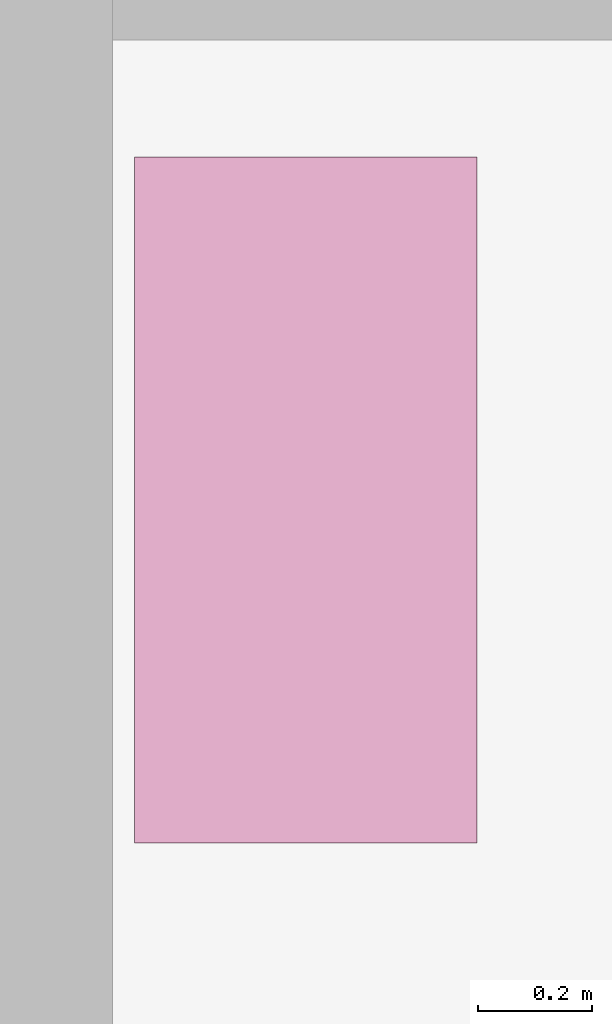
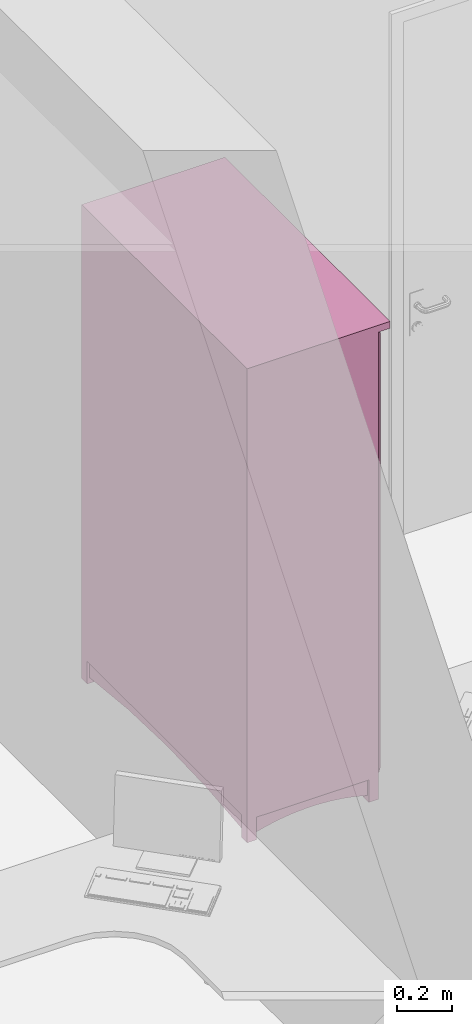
# One storey, part 161 of 194: 1 furnishing.
"""IFC2X3 building model written with IfcOpenShell, lengths in millimetres."""

from ifc_helpers import new_model, entity, si_unit, converted_unit, derived_unit, money_unit, direction, frame, origin_with_axes, place, context, subcontext, project, spatial, open_shell, faceted_brep, surface_model, type_object, element, save


model = new_model("IFC2X3")

# Units and contexts
model_context = context("Model", 3, precision=1e-05, world=origin_with_axes(), true_north=direction((0.0, 1.0)))
body_context = subcontext(model_context, "Body", "Model", "MODEL_VIEW")
ifc_project = project(units=[si_unit("LENGTHUNIT", "METRE", prefix="MILLI"), si_unit("AREAUNIT", "SQUARE_METRE"), si_unit("VOLUMEUNIT", "CUBIC_METRE"), converted_unit("PLANEANGLEUNIT", "DEGREE", entity("IfcPlaneAngleMeasure", 0.0174532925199), si_unit("PLANEANGLEUNIT", "RADIAN"), dimensions=[0, 0, 0, 0, 0, 0, 0]), si_unit("SOLIDANGLEUNIT", "STERADIAN"), money_unit("EUR"), converted_unit("TIMEUNIT", "Year", entity("IfcTimeMeasure", 31556926.0), si_unit("TIMEUNIT", "SECOND"), dimensions=[0, 0, 1, 0, 0, 0, 0]), si_unit("MASSUNIT", "GRAM", prefix="KILO"), si_unit("THERMODYNAMICTEMPERATUREUNIT", "DEGREE_CELSIUS"), si_unit("LUMINOUSINTENSITYUNIT", "LUMEN"), si_unit("ENERGYUNIT", "JOULE", prefix="MEGA"), derived_unit("THERMALCONDUCTANCEUNIT", [(si_unit("POWERUNIT", "WATT"), 1), (si_unit("LENGTHUNIT", "METRE"), -1), (si_unit("THERMODYNAMICTEMPERATUREUNIT", "KELVIN"), -1)]), derived_unit("SPECIFICHEATCAPACITYUNIT", [(si_unit("ENERGYUNIT", "JOULE"), 1), (si_unit("MASSUNIT", "GRAM", prefix="KILO"), -1), (si_unit("THERMODYNAMICTEMPERATUREUNIT", "KELVIN"), -1)]), derived_unit("MASSDENSITYUNIT", [(si_unit("MASSUNIT", "GRAM", prefix="KILO"), 1), (si_unit("VOLUMEUNIT", "CUBIC_METRE"), -1)])], contexts=[model_context])

# Site, building, storey
site_placement = place(None, origin_with_axes())
site = spatial("IfcSite", under=ifc_project, at=site_placement, Name="Site", CompositionType="ELEMENT")
building_placement = place(site_placement, origin_with_axes())
building = spatial("IfcBuilding", under=site, at=building_placement, Name="Building", CompositionType="ELEMENT")
storey_placement = place(building_placement, frame((0.0, 0.0, 3000.0), z_axis=(0.0, 0.0, 1.0), x_axis=(1.0, 0.0, 0.0)))
storey = spatial("IfcBuildingStorey", under=building, at=storey_placement, Name="2 KORRUS", CompositionType="ELEMENT", Elevation=3000.0)

# Furnishing
furnishing_element_type = type_object("IfcFurnishingElementType", Name="Cupboard 22")
furnishing_placement = place(storey_placement, frame((16795.4464706, 61991.5795016, 0.0), z_axis=(0.0, 0.0, 1.0), x_axis=(0.0, 1.0, 0.0)))
element("IfcFurnishingElement", 1, at=furnishing_placement, inside=storey, type_object=furnishing_element_type, Name="FU - 002", context=body_context, shape_type="SurfaceModel", body=[
    faceted_brep([(1180.0, 600.0, 120.0), (1180.0, 600.0, 2050.0), (1180.0, 580.0, 2050.0), (1180.0, 580.0, 120.0), (20.0, 600.0, 120.0), (20.0, 600.0, 2050.0), (20.0, 580.0, 2050.0), (20.0, 580.0, 120.0)], [[[0, 1, 2, 3]], [[4, 5, 1, 0]], [[1, 5, 6, 2]], [[3, 2, 6, 7]], [[0, 3, 7, 4]], [[7, 6, 5, 4]]]),
    faceted_brep([(0.0, 50.0, 100.0), (0.0, 600.0, 100.0), (20.0, 600.0, 100.0), (20.0, 50.0, 100.0), (0.0, 50.0, 2070.0), (0.0, 600.0, 2070.0), (20.0, 600.0, 2070.0), (20.0, 50.0, 2070.0)], [[[0, 1, 2, 3]], [[0, 4, 5, 1]], [[1, 5, 6, 2]], [[2, 6, 7, 3]], [[3, 7, 4, 0]], [[7, 6, 5, 4]]]),
    faceted_brep([(1180.0, 50.0, 100.0), (1180.0, 600.0, 100.0), (1200.0, 600.0, 100.0), (1200.0, 50.0, 100.0), (1180.0, 50.0, 2070.0), (1180.0, 600.0, 2070.0), (1200.0, 600.0, 2070.0), (1200.0, 50.0, 2070.0)], [[[0, 1, 2, 3]], [[0, 4, 5, 1]], [[1, 5, 6, 2]], [[2, 6, 7, 3]], [[3, 7, 4, 0]], [[7, 6, 5, 4]]]),
    faceted_brep([(20.0, 50.0, 100.0), (20.0, 600.0, 100.0), (1180.0, 600.0, 100.0), (1180.0, 50.0, 100.0), (20.0, 50.0, 120.0), (20.0, 600.0, 120.0), (1180.0, 600.0, 120.0), (1180.0, 50.0, 120.0)], [[[0, 1, 2, 3]], [[0, 4, 5, 1]], [[1, 5, 6, 2]], [[2, 6, 7, 3]], [[3, 7, 4, 0]], [[7, 6, 5, 4]]]),
    faceted_brep([(20.0, 50.0, 2050.0), (20.0, 600.0, 2050.0), (1180.0, 600.0, 2050.0), (1180.0, 50.0, 2050.0), (20.0, 50.0, 2070.0), (20.0, 600.0, 2070.0), (1180.0, 600.0, 2070.0), (1180.0, 50.0, 2070.0)], [[[0, 1, 2, 3]], [[0, 4, 5, 1]], [[1, 5, 6, 2]], [[2, 6, 7, 3]], [[3, 7, 4, 0]], [[7, 6, 5, 4]]]),
    faceted_brep([(0.0, 600.0, 2070.0), (0.0, 0.0, 2070.0), (0.0, 0.0, 2100.0), (0.0, 600.0, 2100.0), (1200.0, 600.0, 2070.0), (1200.0, 0.0, 2070.0), (1200.0, 0.0, 2100.0), (1200.0, 600.0, 2100.0)], [[[0, 1, 2, 3]], [[0, 4, 5, 1]], [[1, 5, 6, 2]], [[3, 2, 6, 7]], [[4, 0, 3, 7]], [[5, 4, 7, 6]]]),
    faceted_brep([(1160.0, 590.0, 25.0), (1160.0, 570.0, 25.0), (880.627087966, 570.0, 53.1145136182), (880.627087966, 590.0, 53.1145136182), (1160.0, 590.0, 100.0), (1160.0, 570.0, 100.0), (40.0, 570.0, 100.0), (40.0, 570.0, 25.0), (319.372912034, 570.0, 53.1145136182), (600.0, 570.0, 62.5), (600.0, 590.0, 62.5), (319.372912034, 590.0, 53.1145136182), (40.0, 590.0, 25.0), (40.0, 590.0, 100.0)], [[[0, 1, 2, 3]], [[4, 5, 1, 0]], [[1, 5, 6, 7, 8, 9, 2]], [[3, 2, 9, 10]], [[0, 3, 10, 11, 12, 13, 4]], [[13, 6, 5, 4]], [[12, 7, 6, 13]], [[11, 8, 7, 12]], [[10, 9, 8, 11]]]),
    faceted_brep([(1160.0, 80.0, 25.0), (1160.0, 60.0, 25.0), (880.627087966, 60.0, 53.1145136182), (880.627087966, 80.0, 53.1145136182), (1160.0, 80.0, 100.0), (1160.0, 60.0, 100.0), (40.0, 60.0, 100.0), (40.0, 60.0, 25.0), (319.372912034, 60.0, 53.1145136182), (600.0, 60.0, 62.5), (600.0, 80.0, 62.5), (319.372912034, 80.0, 53.1145136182), (40.0, 80.0, 25.0), (40.0, 80.0, 100.0)], [[[0, 1, 2, 3]], [[4, 5, 1, 0]], [[1, 5, 6, 7, 8, 9, 2]], [[3, 2, 9, 10]], [[0, 3, 10, 11, 12, 13, 4]], [[13, 6, 5, 4]], [[12, 7, 6, 13]], [[11, 8, 7, 12]], [[10, 9, 8, 11]]]),
    faceted_brep([(1190.0, 90.0, 25.0), (1170.0, 90.0, 25.0), (1170.0, 141.266337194, 38.0717567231), (1190.0, 141.266337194, 38.0717567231), (1190.0, 90.0, 100.0), (1170.0, 90.0, 100.0), (1170.0, 560.0, 100.0), (1170.0, 560.0, 25.0), (1170.0, 508.733662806, 38.0717567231), (1170.0, 456.751812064, 47.9203782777), (1170.0, 404.256880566, 54.5075112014), (1170.0, 351.453299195, 57.8075032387), (1170.0, 298.546700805, 57.8075032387), (1170.0, 245.743119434, 54.5075112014), (1170.0, 193.248187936, 47.9203782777), (1190.0, 193.248187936, 47.9203782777), (1190.0, 245.743119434, 54.5075112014), (1190.0, 298.546700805, 57.8075032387), (1190.0, 351.453299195, 57.8075032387), (1190.0, 404.256880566, 54.5075112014), (1190.0, 456.751812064, 47.9203782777), (1190.0, 508.733662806, 38.0717567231), (1190.0, 560.0, 25.0), (1190.0, 560.0, 100.0)], [[[0, 1, 2, 3]], [[4, 5, 1, 0]], [[1, 5, 6, 7, 8, 9, 10, 11, 12, 13, 14, 2]], [[3, 2, 14, 15]], [[0, 3, 15, 16, 17, 18, 19, 20, 21, 22, 23, 4]], [[23, 6, 5, 4]], [[22, 7, 6, 23]], [[21, 8, 7, 22]], [[20, 9, 8, 21]], [[19, 10, 9, 20]], [[18, 11, 10, 19]], [[17, 12, 11, 18]], [[16, 13, 12, 17]], [[15, 14, 13, 16]]]),
    faceted_brep([(30.0, 90.0, 25.0), (10.0, 90.0, 25.0), (10.0, 141.266337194, 38.0717567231), (30.0, 141.266337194, 38.0717567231), (30.0, 90.0, 100.0), (10.0, 90.0, 100.0), (10.0, 560.0, 100.0), (10.0, 560.0, 25.0), (10.0, 508.733662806, 38.0717567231), (10.0, 456.751812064, 47.9203782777), (10.0, 404.256880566, 54.5075112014), (10.0, 351.453299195, 57.8075032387), (10.0, 298.546700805, 57.8075032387), (10.0, 245.743119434, 54.5075112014), (10.0, 193.248187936, 47.9203782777), (30.0, 193.248187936, 47.9203782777), (30.0, 245.743119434, 54.5075112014), (30.0, 298.546700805, 57.8075032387), (30.0, 351.453299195, 57.8075032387), (30.0, 404.256880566, 54.5075112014), (30.0, 456.751812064, 47.9203782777), (30.0, 508.733662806, 38.0717567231), (30.0, 560.0, 25.0), (30.0, 560.0, 100.0)], [[[0, 1, 2, 3]], [[4, 5, 1, 0]], [[1, 5, 6, 7, 8, 9, 10, 11, 12, 13, 14, 2]], [[3, 2, 14, 15]], [[0, 3, 15, 16, 17, 18, 19, 20, 21, 22, 23, 4]], [[23, 6, 5, 4]], [[22, 7, 6, 23]], [[21, 8, 7, 22]], [[20, 9, 8, 21]], [[19, 10, 9, 20]], [[18, 11, 10, 19]], [[17, 12, 11, 18]], [[16, 13, 12, 17]], [[15, 14, 13, 16]]]),
    faceted_brep([(1160.0, 560.0, 0.0), (1160.0, 560.0, 100.0), (1160.0, 600.0, 100.0), (1160.0, 600.0, 0.0), (1200.0, 560.0, 0.0), (1200.0, 560.0, 100.0), (1200.0, 600.0, 100.0), (1200.0, 600.0, 0.0)], [[[0, 1, 2, 3]], [[4, 5, 1, 0]], [[1, 5, 6, 2]], [[3, 2, 6, 7]], [[0, 3, 7, 4]], [[7, 6, 5, 4]]]),
    faceted_brep([(0.0, 560.0, 0.0), (0.0, 560.0, 100.0), (0.0, 600.0, 100.0), (0.0, 600.0, 0.0), (40.0, 560.0, 0.0), (40.0, 560.0, 100.0), (40.0, 600.0, 100.0), (40.0, 600.0, 0.0)], [[[0, 1, 2, 3]], [[4, 5, 1, 0]], [[1, 5, 6, 2]], [[3, 2, 6, 7]], [[0, 3, 7, 4]], [[7, 6, 5, 4]]]),
    faceted_brep([(1160.0, 50.0, 0.0), (1160.0, 50.0, 100.0), (1160.0, 90.0, 100.0), (1160.0, 90.0, 0.0), (1200.0, 50.0, 0.0), (1200.0, 50.0, 100.0), (1200.0, 90.0, 100.0), (1200.0, 90.0, 0.0)], [[[0, 1, 2, 3]], [[4, 5, 1, 0]], [[1, 5, 6, 2]], [[3, 2, 6, 7]], [[0, 3, 7, 4]], [[7, 6, 5, 4]]]),
    faceted_brep([(0.0, 50.0, 0.0), (0.0, 50.0, 100.0), (0.0, 90.0, 100.0), (0.0, 90.0, 0.0), (40.0, 50.0, 0.0), (40.0, 50.0, 100.0), (40.0, 90.0, 100.0), (40.0, 90.0, 0.0)], [[[0, 1, 2, 3]], [[4, 5, 1, 0]], [[1, 5, 6, 2]], [[3, 2, 6, 7]], [[0, 3, 7, 4]], [[7, 6, 5, 4]]]),
    faceted_brep([(1180.0, 580.0, 587.5), (1180.0, 580.0, 607.5), (1180.0, 50.0, 607.5), (1180.0, 50.0, 587.5), (20.0, 580.0, 587.5), (20.0, 580.0, 607.5), (20.0, 50.0, 607.5), (20.0, 50.0, 587.5)], [[[0, 1, 2, 3]], [[4, 5, 1, 0]], [[1, 5, 6, 2]], [[3, 2, 6, 7]], [[0, 3, 7, 4]], [[7, 6, 5, 4]]]),
    faceted_brep([(1180.0, 580.0, 1075.0), (1180.0, 580.0, 1095.0), (1180.0, 50.0, 1095.0), (1180.0, 50.0, 1075.0), (20.0, 580.0, 1075.0), (20.0, 580.0, 1095.0), (20.0, 50.0, 1095.0), (20.0, 50.0, 1075.0)], [[[0, 1, 2, 3]], [[4, 5, 1, 0]], [[1, 5, 6, 2]], [[3, 2, 6, 7]], [[0, 3, 7, 4]], [[7, 6, 5, 4]]]),
    faceted_brep([(1180.0, 580.0, 1562.5), (1180.0, 580.0, 1582.5), (1180.0, 50.0, 1582.5), (1180.0, 50.0, 1562.5), (20.0, 580.0, 1562.5), (20.0, 580.0, 1582.5), (20.0, 50.0, 1582.5), (20.0, 50.0, 1562.5)], [[[0, 1, 2, 3]], [[4, 5, 1, 0]], [[1, 5, 6, 2]], [[3, 2, 6, 7]], [[0, 3, 7, 4]], [[7, 6, 5, 4]]]),
    faceted_brep([(1189.5, 50.0, 110.5), (600.5, 50.0, 110.5), (600.5, 50.0, 2059.5), (1189.5, 50.0, 2059.5), (1089.5, 50.0, 210.5), (1089.5, 50.0, 1879.5), (1052.68418278, 50.0, 1910.11655575), (1011.13738359, 50.0, 1933.92078564), (966.106126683, 50.0, 1950.19849387), (918.941480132, 50.0, 1958.46130207), (871.058519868, 50.0, 1958.46130207), (823.893873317, 50.0, 1950.19849387), (778.862616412, 50.0, 1933.92078564), (737.315817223, 50.0, 1910.11655575), (700.5, 50.0, 1879.5), (700.5, 50.0, 210.5), (1189.50000039, 40.0, 110.49999961), (600.499999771, 40.0, 110.49999961), (600.499999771, 40.0, 2059.49999963), (1189.50000039, 40.0, 2059.49999963), (1089.49999983, 40.0, 210.500000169), (1089.49999983, 40.0, 1879.49999993), (1052.68418236, 40.0, 1910.11655529), (1011.13738405, 40.0, 1933.92078591), (966.106127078, 40.0, 1950.19849402), (918.941480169, 40.0, 1958.46130246), (871.058519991, 40.0, 1958.46130246), (823.893873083, 40.0, 1950.19849402), (778.862616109, 40.0, 1933.92078591), (737.315816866, 40.0, 1910.11655529), (700.50000033, 40.0, 1879.49999993), (700.50000033, 40.0, 210.500000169), (1179.50000061, 30.0000002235, 120.499999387), (610.499999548, 30.0000002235, 120.499999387), (610.499999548, 30.0000002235, 2049.49999986), (1179.50000061, 30.0000002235, 2049.49999986), (1099.49999961, 30.0000002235, 200.500000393), (1099.49999961, 30.0000002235, 1884.18994182), (1058.40981678, 30.0000002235, 1918.36111997), (1015.35442217, 30.0000002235, 1943.02970056), (968.688045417, 30.0000002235, 1959.89846485), (919.810813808, 30.0000002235, 1968.46130223), (870.189186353, 30.0000002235, 1968.46130223), (821.311954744, 30.0000002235, 1959.89846485), (774.645578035, 30.0000002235, 1943.02970058), (731.590182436, 30.0000002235, 1918.36111997), (690.500000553, 30.0000002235, 1884.18994175), (690.500000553, 30.0000002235, 200.500000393)], [[[0, 1, 2, 3], [4, 5, 6, 7, 8, 9, 10, 11, 12, 13, 14, 15]], [[0, 16, 17, 1]], [[1, 17, 18, 2]], [[2, 18, 19, 3]], [[3, 19, 16, 0]], [[4, 20, 21, 5]], [[5, 21, 22, 6]], [[6, 22, 23, 7]], [[7, 23, 24, 8]], [[8, 24, 25, 9]], [[9, 25, 26, 10]], [[10, 26, 27, 11]], [[11, 27, 28, 12]], [[12, 28, 29, 13]], [[13, 29, 30, 14]], [[14, 30, 31, 15]], [[15, 31, 20, 4]], [[16, 32, 33, 17]], [[17, 33, 34, 18]], [[18, 34, 35, 19]], [[19, 35, 32, 16]], [[20, 36, 37, 21]], [[21, 37, 38, 22]], [[22, 38, 39, 23]], [[23, 39, 40, 24]], [[24, 40, 41, 25]], [[25, 41, 42, 26]], [[26, 42, 43, 27]], [[27, 43, 44, 28]], [[28, 44, 45, 29]], [[29, 45, 46, 30]], [[30, 46, 47, 31]], [[31, 47, 36, 20]], [[34, 33, 32, 35], [37, 36, 47, 46, 45, 44, 43, 42, 41, 40, 39, 38]]]),
    faceted_brep([(887.0, 41.0, 1958.46130242), (887.0, 41.0, 210.500000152), (887.0, 40.0, 210.500000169), (887.0, 36.0, 206.500000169), (887.0, 36.0, 1962.46130246), (887.0, 40.0, 1958.46130246), (903.0, 41.0, 1958.46130242), (903.0, 41.0, 210.500000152), (903.0, 40.0, 210.500000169), (903.0, 36.0, 206.500000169), (903.0, 36.0, 1962.46130246), (903.0, 40.0, 1958.46130246)], [[[0, 1, 2, 3, 4, 5]], [[6, 7, 1, 0]], [[1, 7, 8, 2]], [[2, 8, 9, 3]], [[4, 3, 9, 10]], [[10, 11, 5, 4]], [[5, 11, 6, 0]], [[11, 10, 9, 8, 7, 6]]]),
    faceted_brep([(1089.49999983, 40.0, 651.75), (1089.49999985, 41.0, 651.75), (903.0, 41.0, 651.75), (903.0, 36.0, 651.75), (1093.49999983, 36.0, 651.75), (1089.49999983, 40.0, 635.75), (1089.49999985, 41.0, 635.75), (903.0, 41.0, 635.75), (903.0, 36.0, 635.75), (1093.49999983, 36.0, 635.75)], [[[0, 1, 2, 3, 4]], [[0, 5, 6, 1]], [[6, 7, 2, 1]], [[8, 3, 2, 7]], [[4, 3, 8, 9]], [[4, 9, 5, 0]], [[5, 9, 8, 7, 6]]]),
    faceted_brep([(696.50000033, 36.0, 635.75), (887.0, 36.0, 635.75), (887.0, 36.0, 651.75), (696.50000033, 36.0, 651.75), (700.50000033, 40.0, 635.75), (700.500000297, 41.0, 635.75), (887.0, 41.0, 635.75), (887.0, 41.0, 651.75), (700.50000033, 40.0, 651.75), (700.500000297, 41.0, 651.75)], [[[0, 1, 2, 3]], [[4, 5, 6, 1, 0]], [[2, 1, 6, 7]], [[8, 3, 2, 7, 9]], [[8, 4, 0, 3]], [[9, 5, 4, 8]], [[9, 7, 6, 5]]]),
    faceted_brep([(1089.49999983, 40.0, 1093.0), (1089.49999985, 41.0, 1093.0), (903.0, 41.0, 1093.0), (903.0, 36.0, 1093.0), (1093.49999983, 36.0, 1093.0), (1089.49999983, 40.0, 1077.0), (1089.49999985, 41.0, 1077.0), (903.0, 41.0, 1077.0), (903.0, 36.0, 1077.0), (1093.49999983, 36.0, 1077.0)], [[[0, 1, 2, 3, 4]], [[0, 5, 6, 1]], [[6, 7, 2, 1]], [[8, 3, 2, 7]], [[4, 3, 8, 9]], [[4, 9, 5, 0]], [[5, 9, 8, 7, 6]]]),
    faceted_brep([(696.50000033, 36.0, 1077.0), (887.0, 36.0, 1077.0), (887.0, 36.0, 1093.0), (696.50000033, 36.0, 1093.0), (700.50000033, 40.0, 1077.0), (700.500000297, 41.0, 1077.0), (887.0, 41.0, 1077.0), (887.0, 41.0, 1093.0), (700.50000033, 40.0, 1093.0), (700.500000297, 41.0, 1093.0)], [[[0, 1, 2, 3]], [[4, 5, 6, 1, 0]], [[2, 1, 6, 7]], [[8, 3, 2, 7, 9]], [[8, 4, 0, 3]], [[9, 5, 4, 8]], [[9, 7, 6, 5]]]),
    faceted_brep([(1089.49999983, 40.0, 1534.25), (1089.49999985, 41.0, 1534.25), (903.0, 41.0, 1534.25), (903.0, 36.0, 1534.25), (1093.49999983, 36.0, 1534.25), (1089.49999983, 40.0, 1518.25), (1089.49999985, 41.0, 1518.25), (903.0, 41.0, 1518.25), (903.0, 36.0, 1518.25), (1093.49999983, 36.0, 1518.25)], [[[0, 1, 2, 3, 4]], [[0, 5, 6, 1]], [[6, 7, 2, 1]], [[8, 3, 2, 7]], [[4, 3, 8, 9]], [[4, 9, 5, 0]], [[5, 9, 8, 7, 6]]]),
    faceted_brep([(696.50000033, 36.0, 1518.25), (887.0, 36.0, 1518.25), (887.0, 36.0, 1534.25), (696.50000033, 36.0, 1534.25), (700.50000033, 40.0, 1518.25), (700.500000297, 41.0, 1518.25), (887.0, 41.0, 1518.25), (887.0, 41.0, 1534.25), (700.50000033, 40.0, 1534.25), (700.500000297, 41.0, 1534.25)], [[[0, 1, 2, 3]], [[4, 5, 6, 1, 0]], [[2, 1, 6, 7]], [[8, 3, 2, 7, 9]], [[8, 4, 0, 3]], [[9, 5, 4, 8]], [[9, 7, 6, 5]]]),
    surface_model("IfcShellBasedSurfaceModel", [(1089.5, 40.0, 210.5), (700.5, 40.0, 210.5), (700.5, 40.0, 1879.5), (737.315817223, 40.0, 1910.11655575), (778.862616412, 40.0, 1933.92078564), (823.893873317, 40.0, 1950.19849387), (871.058519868, 40.0, 1958.46130207), (918.941480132, 40.0, 1958.46130207), (966.106126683, 40.0, 1950.19849387), (1011.13738359, 40.0, 1933.92078564), (1052.68418278, 40.0, 1910.11655575), (1089.5, 40.0, 1879.5)], [open_shell([[[0, 1, 2, 3, 4, 5, 6, 7, 8, 9, 10, 11]]])]),
    faceted_brep([(599.5, 50.0, 110.5), (10.5, 50.0, 110.5), (10.5, 50.0, 2059.5), (599.5, 50.0, 2059.5), (499.5, 50.0, 210.5), (499.5, 50.0, 1879.5), (462.684182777, 50.0, 1910.11655575), (421.137383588, 50.0, 1933.92078564), (376.106126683, 50.0, 1950.19849387), (328.941480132, 50.0, 1958.46130207), (281.058519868, 50.0, 1958.46130207), (233.893873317, 50.0, 1950.19849387), (188.862616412, 50.0, 1933.92078564), (147.315817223, 50.0, 1910.11655575), (110.5, 50.0, 1879.5), (110.5, 50.0, 210.5), (599.50000039, 40.0, 110.49999961), (10.4999997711, 40.0, 110.49999961), (10.4999997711, 40.0, 2059.49999963), (599.50000039, 40.0, 2059.49999963), (499.499999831, 40.0, 210.500000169), (499.499999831, 40.0, 1879.49999993), (462.684182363, 40.0, 1910.11655529), (421.137384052, 40.0, 1933.92078591), (376.106127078, 40.0, 1950.19849402), (328.941480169, 40.0, 1958.46130246), (281.058519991, 40.0, 1958.46130246), (233.893873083, 40.0, 1950.19849402), (188.862616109, 40.0, 1933.92078591), (147.315816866, 40.0, 1910.11655529), (110.50000033, 40.0, 1879.49999993), (110.50000033, 40.0, 210.500000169), (589.500000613, 30.0000002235, 120.499999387), (20.4999995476, 30.0000002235, 120.499999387), (20.4999995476, 30.0000002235, 2049.49999986), (589.500000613, 30.0000002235, 2049.49999986), (509.499999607, 30.0000002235, 200.500000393), (509.499999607, 30.0000002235, 1884.18994182), (468.409816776, 30.0000002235, 1918.36111997), (425.354422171, 30.0000002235, 1943.02970056), (378.688045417, 30.0000002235, 1959.89846485), (329.810813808, 30.0000002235, 1968.46130223), (280.189186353, 30.0000002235, 1968.46130223), (231.311954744, 30.0000002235, 1959.89846485), (184.645578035, 30.0000002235, 1943.02970058), (141.590182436, 30.0000002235, 1918.36111997), (100.500000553, 30.0000002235, 1884.18994175), (100.500000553, 30.0000002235, 200.500000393)], [[[0, 1, 2, 3], [4, 5, 6, 7, 8, 9, 10, 11, 12, 13, 14, 15]], [[0, 16, 17, 1]], [[1, 17, 18, 2]], [[2, 18, 19, 3]], [[3, 19, 16, 0]], [[4, 20, 21, 5]], [[5, 21, 22, 6]], [[6, 22, 23, 7]], [[7, 23, 24, 8]], [[8, 24, 25, 9]], [[9, 25, 26, 10]], [[10, 26, 27, 11]], [[11, 27, 28, 12]], [[12, 28, 29, 13]], [[13, 29, 30, 14]], [[14, 30, 31, 15]], [[15, 31, 20, 4]], [[16, 32, 33, 17]], [[17, 33, 34, 18]], [[18, 34, 35, 19]], [[19, 35, 32, 16]], [[20, 36, 37, 21]], [[21, 37, 38, 22]], [[22, 38, 39, 23]], [[23, 39, 40, 24]], [[24, 40, 41, 25]], [[25, 41, 42, 26]], [[26, 42, 43, 27]], [[27, 43, 44, 28]], [[28, 44, 45, 29]], [[29, 45, 46, 30]], [[30, 46, 47, 31]], [[31, 47, 36, 20]], [[34, 33, 32, 35], [37, 36, 47, 46, 45, 44, 43, 42, 41, 40, 39, 38]]]),
    faceted_brep([(297.0, 41.0, 1958.46130242), (297.0, 41.0, 210.500000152), (297.0, 40.0, 210.500000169), (297.0, 36.0, 206.500000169), (297.0, 36.0, 1962.46130246), (297.0, 40.0, 1958.46130246), (313.0, 41.0, 1958.46130242), (313.0, 41.0, 210.500000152), (313.0, 40.0, 210.500000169), (313.0, 36.0, 206.500000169), (313.0, 36.0, 1962.46130246), (313.0, 40.0, 1958.46130246)], [[[0, 1, 2, 3, 4, 5]], [[6, 7, 1, 0]], [[1, 7, 8, 2]], [[2, 8, 9, 3]], [[4, 3, 9, 10]], [[10, 11, 5, 4]], [[5, 11, 6, 0]], [[11, 10, 9, 8, 7, 6]]]),
    faceted_brep([(499.499999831, 40.0, 651.75), (499.499999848, 41.0, 651.75), (313.0, 41.0, 651.75), (313.0, 36.0, 651.75), (503.499999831, 36.0, 651.75), (499.499999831, 40.0, 635.75), (499.499999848, 41.0, 635.75), (313.0, 41.0, 635.75), (313.0, 36.0, 635.75), (503.499999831, 36.0, 635.75)], [[[0, 1, 2, 3, 4]], [[0, 5, 6, 1]], [[6, 7, 2, 1]], [[8, 3, 2, 7]], [[4, 3, 8, 9]], [[4, 9, 5, 0]], [[5, 9, 8, 7, 6]]]),
    faceted_brep([(106.50000033, 36.0, 635.75), (297.0, 36.0, 635.75), (297.0, 36.0, 651.75), (106.50000033, 36.0, 651.75), (110.50000033, 40.0, 635.75), (110.500000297, 41.0, 635.75), (297.0, 41.0, 635.75), (297.0, 41.0, 651.75), (110.50000033, 40.0, 651.75), (110.500000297, 41.0, 651.75)], [[[0, 1, 2, 3]], [[4, 5, 6, 1, 0]], [[2, 1, 6, 7]], [[8, 3, 2, 7, 9]], [[8, 4, 0, 3]], [[9, 5, 4, 8]], [[9, 7, 6, 5]]]),
    faceted_brep([(499.499999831, 40.0, 1093.0), (499.499999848, 41.0, 1093.0), (313.0, 41.0, 1093.0), (313.0, 36.0, 1093.0), (503.499999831, 36.0, 1093.0), (499.499999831, 40.0, 1077.0), (499.499999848, 41.0, 1077.0), (313.0, 41.0, 1077.0), (313.0, 36.0, 1077.0), (503.499999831, 36.0, 1077.0)], [[[0, 1, 2, 3, 4]], [[0, 5, 6, 1]], [[6, 7, 2, 1]], [[8, 3, 2, 7]], [[4, 3, 8, 9]], [[4, 9, 5, 0]], [[5, 9, 8, 7, 6]]]),
    faceted_brep([(106.50000033, 36.0, 1077.0), (297.0, 36.0, 1077.0), (297.0, 36.0, 1093.0), (106.50000033, 36.0, 1093.0), (110.50000033, 40.0, 1077.0), (110.500000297, 41.0, 1077.0), (297.0, 41.0, 1077.0), (297.0, 41.0, 1093.0), (110.50000033, 40.0, 1093.0), (110.500000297, 41.0, 1093.0)], [[[0, 1, 2, 3]], [[4, 5, 6, 1, 0]], [[2, 1, 6, 7]], [[8, 3, 2, 7, 9]], [[8, 4, 0, 3]], [[9, 5, 4, 8]], [[9, 7, 6, 5]]]),
    faceted_brep([(499.499999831, 40.0, 1534.25), (499.499999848, 41.0, 1534.25), (313.0, 41.0, 1534.25), (313.0, 36.0, 1534.25), (503.499999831, 36.0, 1534.25), (499.499999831, 40.0, 1518.25), (499.499999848, 41.0, 1518.25), (313.0, 41.0, 1518.25), (313.0, 36.0, 1518.25), (503.499999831, 36.0, 1518.25)], [[[0, 1, 2, 3, 4]], [[0, 5, 6, 1]], [[6, 7, 2, 1]], [[8, 3, 2, 7]], [[4, 3, 8, 9]], [[4, 9, 5, 0]], [[5, 9, 8, 7, 6]]]),
    faceted_brep([(106.50000033, 36.0, 1518.25), (297.0, 36.0, 1518.25), (297.0, 36.0, 1534.25), (106.50000033, 36.0, 1534.25), (110.50000033, 40.0, 1518.25), (110.500000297, 41.0, 1518.25), (297.0, 41.0, 1518.25), (297.0, 41.0, 1534.25), (110.50000033, 40.0, 1534.25), (110.500000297, 41.0, 1534.25)], [[[0, 1, 2, 3]], [[4, 5, 6, 1, 0]], [[2, 1, 6, 7]], [[8, 3, 2, 7, 9]], [[8, 4, 0, 3]], [[9, 5, 4, 8]], [[9, 7, 6, 5]]]),
    surface_model("IfcShellBasedSurfaceModel", [(499.5, 40.0, 210.5), (110.5, 40.0, 210.5), (110.5, 40.0, 1879.5), (147.315817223, 40.0, 1910.11655575), (188.862616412, 40.0, 1933.92078564), (233.893873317, 40.0, 1950.19849387), (281.058519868, 40.0, 1958.46130207), (328.941480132, 40.0, 1958.46130207), (376.106126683, 40.0, 1950.19849387), (421.137383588, 40.0, 1933.92078564), (462.684182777, 40.0, 1910.11655575), (499.5, 40.0, 1879.5)], [open_shell([[[0, 1, 2, 3, 4, 5, 6, 7, 8, 9, 10, 11]]])]),
    faceted_brep([(539.607695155, 30.0, 954.0), (538.0, 30.0, 960.0), (539.607695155, 30.0, 966.0), (544.0, 30.0, 970.392304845), (550.0, 30.0, 972.0), (556.0, 30.0, 970.392304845), (560.392304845, 30.0, 966.0), (562.0, 30.0, 960.0), (560.392304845, 30.0, 954.0), (556.0, 30.0, 949.607695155), (550.0, 30.0, 948.0), (544.0, 30.0, 949.607695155), (539.607695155, 5.0, 954.0), (538.0, 5.0, 960.0), (539.607695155, 5.0, 966.0), (544.0, 5.0, 970.392304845), (550.0, 5.0, 972.0), (556.0, 5.0, 970.392304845), (560.392304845, 5.0, 966.0), (562.0, 5.0, 960.0), (560.392304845, 5.0, 954.0), (556.0, 5.0, 949.607695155), (550.0, 5.0, 948.0), (544.0, 5.0, 949.607695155)], [[[0, 1, 2, 3, 4, 5, 6, 7, 8, 9, 10, 11]], [[0, 12, 13, 1]], [[1, 13, 14, 2]], [[2, 14, 15, 3]], [[3, 15, 16, 4]], [[4, 16, 17, 5]], [[5, 17, 18, 6]], [[6, 18, 19, 7]], [[7, 19, 20, 8]], [[8, 20, 21, 9]], [[9, 21, 22, 10]], [[10, 22, 23, 11]], [[11, 23, 12, 0]], [[12, 23, 22, 21, 20, 19, 18, 17, 16, 15, 14, 13]]]),
    faceted_brep([(660.392304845, 30.0, 954.0), (656.0, 30.0, 949.607695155), (650.0, 30.0, 948.0), (644.0, 30.0, 949.607695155), (639.607695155, 30.0, 954.0), (638.0, 30.0, 960.0), (639.607695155, 30.0, 966.0), (644.0, 30.0, 970.392304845), (650.0, 30.0, 972.0), (656.0, 30.0, 970.392304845), (660.392304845, 30.0, 966.0), (662.0, 30.0, 960.0), (660.392304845, 5.0, 954.0), (656.0, 5.0, 949.607695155), (650.0, 5.0, 948.0), (644.0, 5.0, 949.607695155), (639.607695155, 5.0, 954.0), (638.0, 5.0, 960.0), (639.607695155, 5.0, 966.0), (644.0, 5.0, 970.392304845), (650.0, 5.0, 972.0), (656.0, 5.0, 970.392304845), (660.392304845, 5.0, 966.0), (662.0, 5.0, 960.0)], [[[0, 1, 2, 3, 4, 5, 6, 7, 8, 9, 10, 11]], [[1, 0, 12, 13]], [[2, 1, 13, 14]], [[3, 2, 14, 15]], [[4, 3, 15, 16]], [[5, 4, 16, 17]], [[6, 5, 17, 18]], [[7, 6, 18, 19]], [[8, 7, 19, 20]], [[9, 8, 20, 21]], [[10, 9, 21, 22]], [[11, 10, 22, 23]], [[0, 11, 23, 12]], [[12, 23, 22, 21, 20, 19, 18, 17, 16, 15, 14, 13]]]),
])

save(model, "model.ifc")
